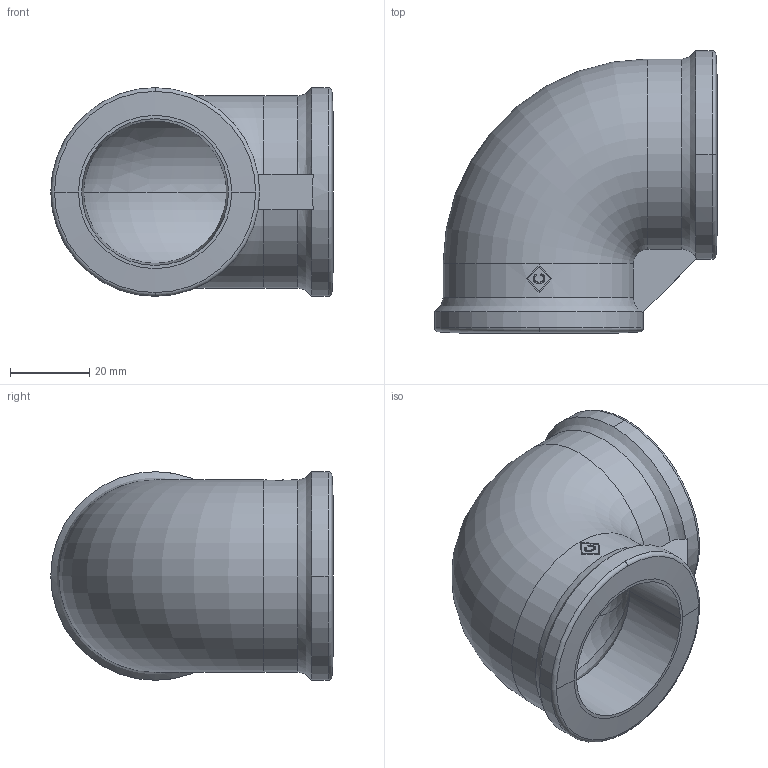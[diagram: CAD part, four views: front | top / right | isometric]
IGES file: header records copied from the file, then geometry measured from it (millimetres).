
Global section: file name: No Iges File Name specified; native system: AutoDesk Inventor R12.0; preprocessor: AutoDesk Inventor Iges Exporter R12.0; date: 20090915.110417; units: millimetre
Bounding box: 71.35 x 71.35 x 52.7 mm (x, y, z)
Volume: 54485.9 mm3; surface area: 24406.8 mm2
Topology: 1 solids, 1 shells, 51 faces, 151 edges, 105 vertices
Faces by surface type: plane 15, bspline 12, cylinder 9, revolution 6, torus 5, cone 4
